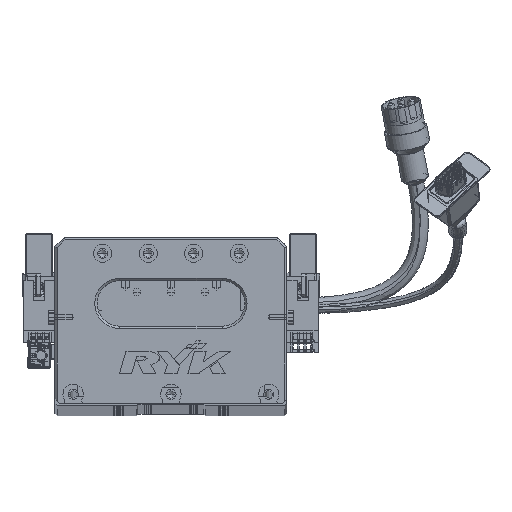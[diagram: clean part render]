
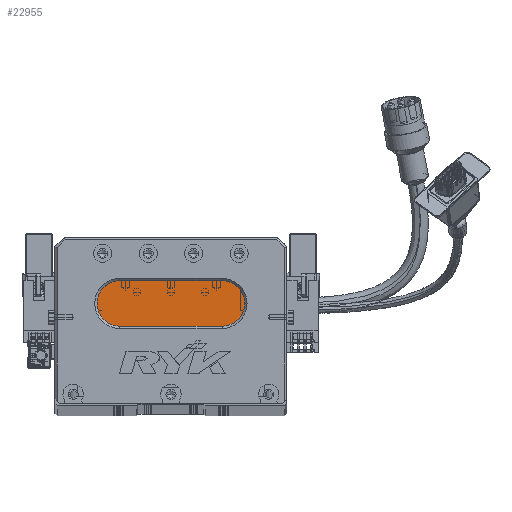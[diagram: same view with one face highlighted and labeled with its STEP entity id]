
A CAD part, top view. The second image highlights one B-rep face of the part: STEP entity #22955.
In plain terms, the highlighted planar face has unit normal (0, 0, 1) as drawn and (0, 0, -1) by its records, which use the part's own axes.
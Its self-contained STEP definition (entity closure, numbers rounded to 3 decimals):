
#1542 = DIRECTION ( 'NONE',  ( 0., 0., -1. ) ) ;
#2659 = CIRCLE ( 'NONE', #64516, 10. ) ;
#4934 = CARTESIAN_POINT ( 'NONE',  ( 28.5, 44., 13. ) ) ;
#6251 = VERTEX_POINT ( 'NONE', #45006 ) ;
#7818 = VERTEX_POINT ( 'NONE', #44953 ) ;
#10227 = ORIENTED_EDGE ( 'NONE', *, *, #45783, .T. ) ;
#11310 = DIRECTION ( 'NONE',  ( 1., 0., 0. ) ) ;
#11575 = DIRECTION ( 'NONE',  ( 0., 0., -1. ) ) ;
#13542 = AXIS2_PLACEMENT_3D ( 'NONE', #50445, #57106, #78030 ) ;
#19760 = VECTOR ( 'NONE', #11310, 1000. ) ;
#20970 = VECTOR ( 'NONE', #28040, 1000. ) ;
#22955 = ADVANCED_FACE ( 'NONE', ( #63627 ), #80484, .T. ) ;
#28040 = DIRECTION ( 'NONE',  ( -1., 0., 0. ) ) ;
#31086 = VERTEX_POINT ( 'NONE', #35584 ) ;
#33599 = EDGE_CURVE ( 'NONE', #7818, #67872, #2659, .T. ) ;
#35584 = CARTESIAN_POINT ( 'NONE',  ( 73.5, 34., 13. ) ) ;
#36264 = EDGE_CURVE ( 'NONE', #31086, #7818, #84398, .T. ) ;
#36462 = LINE ( 'NONE', #83927, #19760 ) ;
#44953 = CARTESIAN_POINT ( 'NONE',  ( 28.5, 34., 13. ) ) ;
#45006 = CARTESIAN_POINT ( 'NONE',  ( 73.5, 54., 13. ) ) ;
#45783 = EDGE_CURVE ( 'NONE', #6251, #31086, #52804, .T. ) ;
#50445 = CARTESIAN_POINT ( 'NONE',  ( 73.5, 44., 13. ) ) ;
#51613 = CARTESIAN_POINT ( 'NONE',  ( 28.5, 54., 13. ) ) ;
#52804 = CIRCLE ( 'NONE', #13542, 10. ) ;
#54041 = DIRECTION ( 'NONE',  ( -1., 0., 0. ) ) ;
#54420 = EDGE_CURVE ( 'NONE', #75247, #6251, #36462, .T. ) ;
#55879 = CIRCLE ( 'NONE', #70603, 10. ) ;
#56366 = ORIENTED_EDGE ( 'NONE', *, *, #33599, .T. ) ;
#57106 = DIRECTION ( 'NONE',  ( 0., 0., -1. ) ) ;
#62449 = EDGE_LOOP ( 'NONE', ( #10227, #79357, #56366, #64410, #78834 ) ) ;
#63627 = FACE_OUTER_BOUND ( 'NONE', #62449, .T. ) ;
#64410 = ORIENTED_EDGE ( 'NONE', *, *, #81643, .T. ) ;
#64516 = AXIS2_PLACEMENT_3D ( 'NONE', #70987, #70139, #83832 ) ;
#67872 = VERTEX_POINT ( 'NONE', #77305 ) ;
#68086 = CARTESIAN_POINT ( 'NONE',  ( 73.5, 34., 13. ) ) ;
#70139 = DIRECTION ( 'NONE',  ( 0., 0., -1. ) ) ;
#70603 = AXIS2_PLACEMENT_3D ( 'NONE', #4934, #11575, #83896 ) ;
#70987 = CARTESIAN_POINT ( 'NONE',  ( 28.5, 44., 13. ) ) ;
#74351 = CARTESIAN_POINT ( 'NONE',  ( 73.5, 44., 13. ) ) ;
#75247 = VERTEX_POINT ( 'NONE', #51613 ) ;
#76363 = AXIS2_PLACEMENT_3D ( 'NONE', #74351, #1542, #54041 ) ;
#77305 = CARTESIAN_POINT ( 'NONE',  ( 18.5, 44., 13. ) ) ;
#78030 = DIRECTION ( 'NONE',  ( -1., 0., 0. ) ) ;
#78834 = ORIENTED_EDGE ( 'NONE', *, *, #54420, .T. ) ;
#79357 = ORIENTED_EDGE ( 'NONE', *, *, #36264, .T. ) ;
#80484 = PLANE ( 'NONE',  #76363 ) ;
#81643 = EDGE_CURVE ( 'NONE', #67872, #75247, #55879, .T. ) ;
#83832 = DIRECTION ( 'NONE',  ( -1., 0., 0. ) ) ;
#83896 = DIRECTION ( 'NONE',  ( -1., 0., 0. ) ) ;
#83927 = CARTESIAN_POINT ( 'NONE',  ( 73.5, 54., 13. ) ) ;
#84398 = LINE ( 'NONE', #68086, #20970 ) ;
